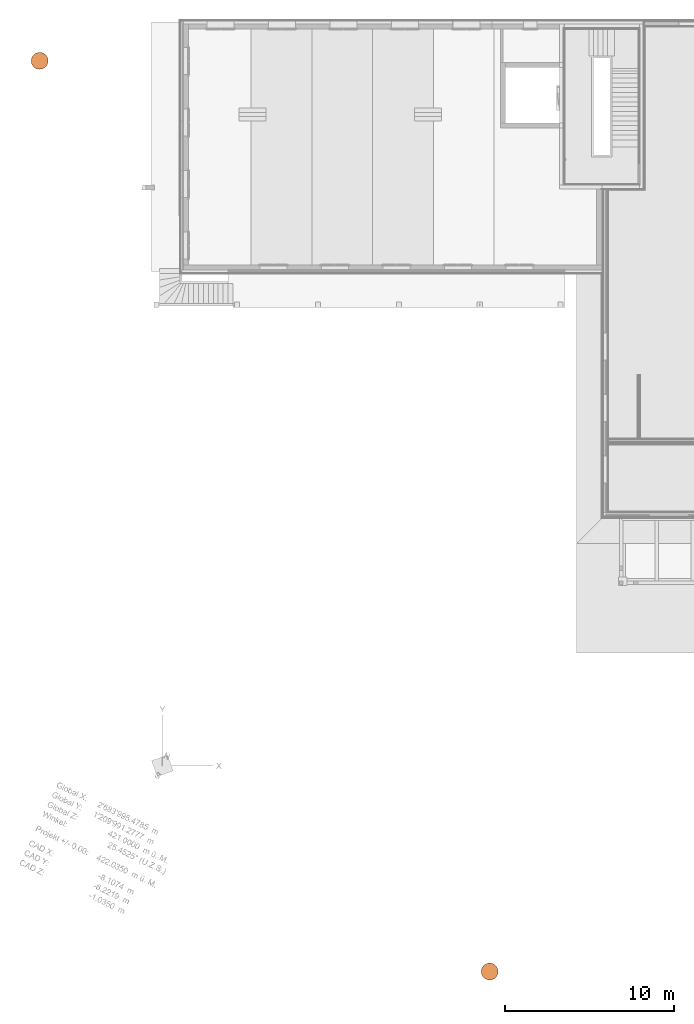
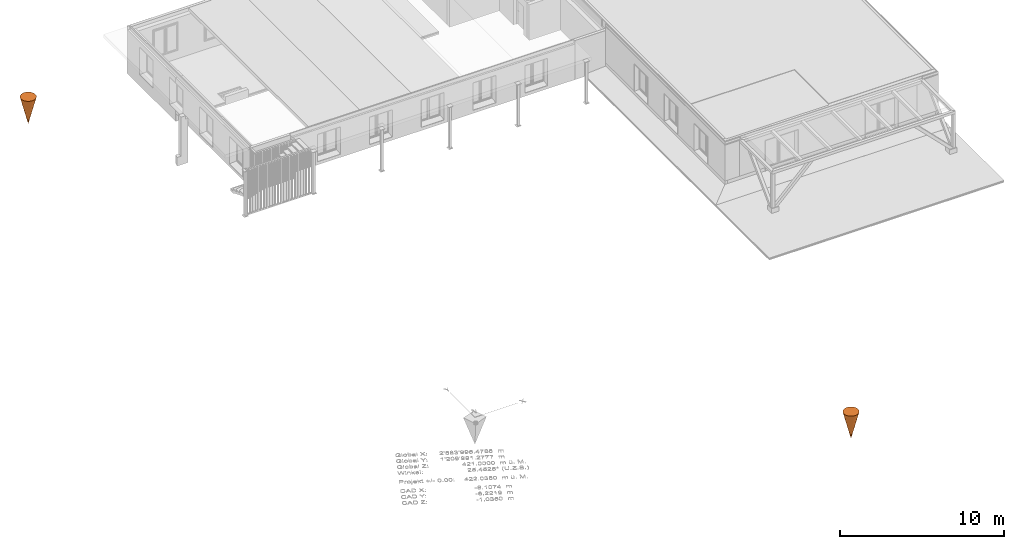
# One storey, part 20 of 20: 2 proxies.
"""IFC4 building model written with IfcOpenShell, lengths in millimetres."""

from ifc_helpers import new_model, entity, si_unit, converted_unit, derived_unit, direction, frame, origin_with_axes, place, context, subcontext, project, spatial, polygons, source, transform, mapped, type_object, element, save


model = new_model("IFC4")

# Units and contexts
model_context = context("Model", 3, precision=0.01, world=origin_with_axes(), true_north=direction((0.0, 1.0)))
body_context = subcontext(model_context, "Body", "Model", "MODEL_VIEW")
ifc_project = project(units=[si_unit("LENGTHUNIT", "METRE", prefix="MILLI"), si_unit("AREAUNIT", "SQUARE_METRE"), si_unit("VOLUMEUNIT", "CUBIC_METRE"), converted_unit("PLANEANGLEUNIT", "DEGREE", entity("IfcPlaneAngleMeasure", 0.0174532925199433), si_unit("PLANEANGLEUNIT", "RADIAN"), dimensions=[0, 0, 0, 0, 0, 0, 0]), converted_unit("TIMEUNIT", "Year", entity("IfcTimeMeasure", 31557600.0), si_unit("TIMEUNIT", "SECOND"), dimensions=[0, 0, 1, 0, 0, 0, 0]), si_unit("MASSUNIT", "GRAM", prefix="KILO"), si_unit("THERMODYNAMICTEMPERATUREUNIT", "DEGREE_CELSIUS"), si_unit("LUMINOUSINTENSITYUNIT", "LUMEN"), si_unit("ENERGYUNIT", "JOULE", prefix="MEGA"), derived_unit("THERMALCONDUCTANCEUNIT", [(si_unit("POWERUNIT", "WATT"), 1), (si_unit("LENGTHUNIT", "METRE"), -1), (si_unit("THERMODYNAMICTEMPERATUREUNIT", "KELVIN"), -1)]), derived_unit("SPECIFICHEATCAPACITYUNIT", [(si_unit("ENERGYUNIT", "JOULE"), 1), (si_unit("MASSUNIT", "GRAM", prefix="KILO"), -1), (si_unit("THERMODYNAMICTEMPERATUREUNIT", "KELVIN"), -1)]), derived_unit("MASSDENSITYUNIT", [(si_unit("MASSUNIT", "GRAM", prefix="KILO"), 1), (si_unit("VOLUMEUNIT", "CUBIC_METRE"), -1)])], contexts=[model_context])

# Site, building, storey
site_placement = place(None, origin_with_axes())
site = spatial("IfcSite", under=ifc_project, at=site_placement, Name="Gelände", CompositionType="ELEMENT")
building_placement = place(site_placement, origin_with_axes())
building = spatial("IfcBuilding", under=site, at=building_placement, Name="Gebäude", CompositionType="ELEMENT")
storey_placement = place(building_placement, frame((0.0, 0.0, 5.198845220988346e-05), z_axis=(0.0, 0.0, 1.0), x_axis=(1.0, 0.0, 0.0)))
storey = spatial("IfcBuildingStorey", under=building, at=storey_placement, Name="EG", CompositionType="ELEMENT", Elevation=0.0)

# Proxies
building_element_proxy_type = type_object("IfcBuildingElementProxyType", Name="Evolut_Referenzpunkt_BIM Base_v4.0.7", PredefinedType="NOTDEFINED")
shared_shape = source(origin_with_axes(), body_context, "Body", "Tessellation", [
    polygons([(-492.4038765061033, -86.82408883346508, 2000.0), (-469.8463103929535, -171.0100716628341, 2000.0), (-433.0127018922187, -249.9999999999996, 2000.0), (-383.0222215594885, -321.3938048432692, 2000.0), (-321.3938048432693, -383.0222215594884, 2000.0), (-249.9999999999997, -433.0127018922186, 2000.0), (-171.0100716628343, -469.8463103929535, 2000.0), (-86.82408883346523, -492.4038765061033, 2000.0), (0.0, -499.9999999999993, 2000.0), (86.82408883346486, -492.4038765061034, 2000.0), (171.010071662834, -469.8463103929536, 2000.0), (249.9999999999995, -433.0127018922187, 2000.0), (321.3938048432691, -383.0222215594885, 2000.0), (383.0222215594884, -321.3938048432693, 2000.0), (433.0127018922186, -249.9999999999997, 2000.0), (469.8463103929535, -171.0100716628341, 2000.0), (492.4038765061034, -86.82408883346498, 2000.0), (499.9999999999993, 0.0, 2000.0), (492.4038765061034, 86.82408883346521, 2000.0), (469.8463103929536, 171.0100716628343, 2000.0), (433.0127018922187, 249.9999999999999, 2000.0), (383.0222215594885, 321.3938048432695, 2000.0), (321.3938048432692, 383.0222215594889, 2000.0), (249.9999999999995, 433.0127018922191, 2000.0), (171.010071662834, 469.846310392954, 2000.0), (86.82408883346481, 492.4038765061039, 2000.0), (0.0, 499.9999999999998, 2000.0), (-86.82408883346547, 492.4038765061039, 2000.0), (-171.0100716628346, 469.8463103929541, 2000.0), (-250.0000000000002, 433.0127018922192, 2000.0), (-321.3938048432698, 383.022221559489, 2000.0), (-383.0222215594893, 321.3938048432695, 2000.0), (-433.0127018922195, 249.9999999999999, 2000.0), (-469.8463103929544, 171.0100716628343, 2000.0), (-492.4038765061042, 86.82408883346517, 2000.0), (-500.0000000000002, 0.0, 2000.0), (0.0, 0.0, 0.0)], [[[1, 2, 3, 4, 5, 6, 7, 8, 9, 10, 11, 12, 13, 14, 15, 16, 17, 18, 19, 20, 21, 22, 23, 24, 25, 26, 27, 28, 29, 30, 31, 32, 33, 34, 35, 36]], [[2, 1, 37]], [[3, 2, 37]], [[4, 3, 37]], [[5, 4, 37]], [[6, 5, 37]], [[7, 6, 37]], [[8, 7, 37]], [[9, 8, 37]], [[10, 9, 37]], [[11, 10, 37]], [[12, 11, 37]], [[13, 12, 37]], [[14, 13, 37]], [[15, 14, 37]], [[16, 15, 37]], [[17, 16, 37]], [[18, 17, 37]], [[19, 18, 37]], [[20, 19, 37]], [[21, 20, 37]], [[22, 21, 37]], [[23, 22, 37]], [[24, 23, 37]], [[25, 24, 37]], [[26, 25, 37]], [[27, 26, 37]], [[28, 27, 37]], [[29, 28, 37]], [[30, 29, 37]], [[31, 30, 37]], [[32, 31, 37]], [[33, 32, 37]], [[34, 33, 37]], [[35, 34, 37]], [[36, 35, 37]], [[1, 36, 37]]], closed=True),
])
for number, where, z_axis, x_axis, name in (
    (1, (-15380.95704107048, 35551.38561886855, 0.0), (0.0, 0.0, 1.0), (1.0, 0.0, 0.0), "Kontrollpunkt_3613"),
    (2, (11285.01329960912, -18415.29158546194, 0.0), (0.0, 0.0, 1.0), (1.0, 0.0, 0.0), "Kontrollpunkt_4497"),
):
    element("IfcBuildingElementProxy", number, at=place(storey_placement, frame(where, z_axis=z_axis, x_axis=x_axis)), inside=storey, type_object=building_element_proxy_type, Name=name, PredefinedType="NOTDEFINED", context=body_context, shape_type="MappedRepresentation", body=[
        mapped(shared_shape, transform((0.0, 0.0, 0.0))),
    ])

save(model, "model.ifc")
